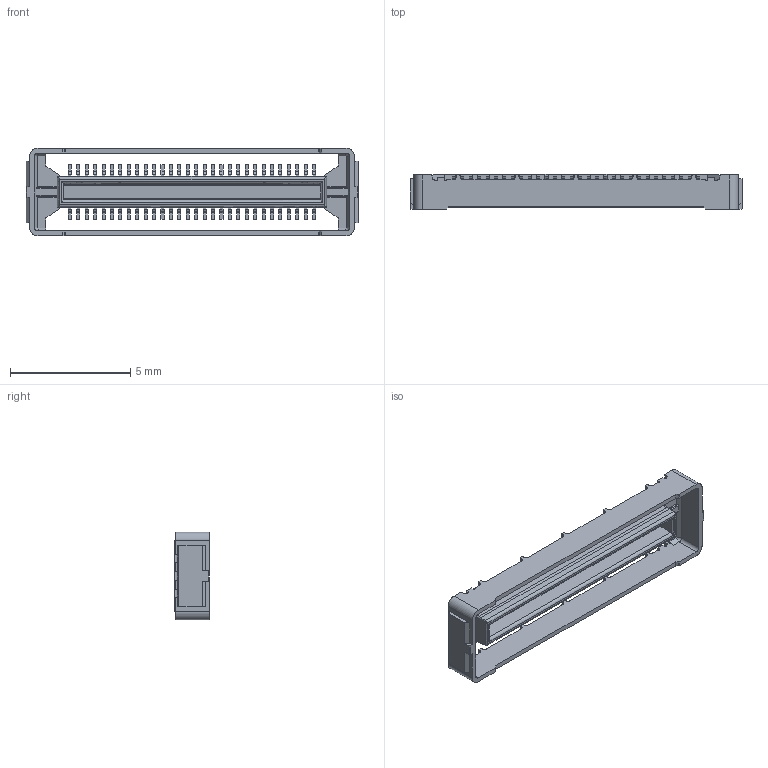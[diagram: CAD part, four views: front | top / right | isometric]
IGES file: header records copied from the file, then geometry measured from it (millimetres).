
Start section: SolidWorks IGES file using analytic representation for surfaces
Global section: file name: C:\3dwork\Baba\20240514 NOVA35-HDH 汎用70P図面\21003-060EC NOVASTACK 35-HDH PLUG ASSEMBLY IGES R4.IGS; native system: SolidWorks 2023; preprocessor: SolidWorks 2023; author: 83109; date: 240515.135930; units: millimetre
Bounding box: 13.8 x 1.45 x 3.64 mm (x, y, z)
Surface area: 192.3 mm2 (no closed solid volume)
Topology: 0 solids, 0 shells, 1089 faces, 6975 edges, 6975 vertices
Faces by surface type: bspline 739, revolution 350
